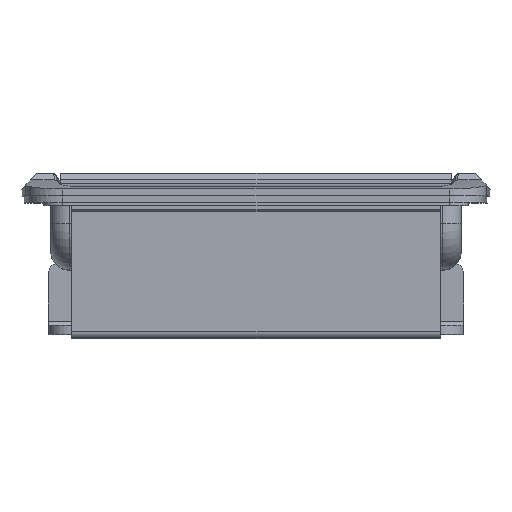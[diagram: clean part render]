
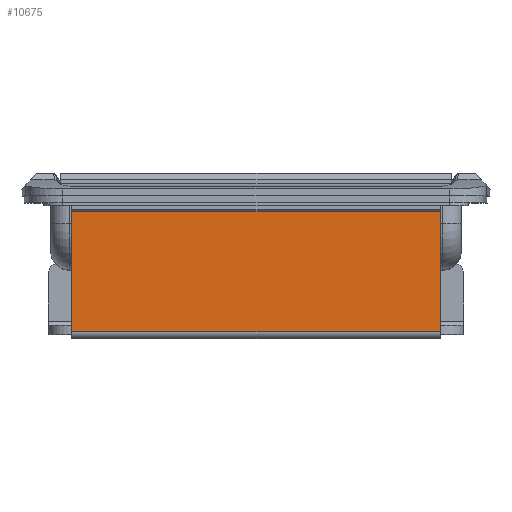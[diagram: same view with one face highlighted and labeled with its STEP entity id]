
A CAD part, top view. The second image highlights one B-rep face of the part: STEP entity #10675.
In plain terms, the highlighted planar face has unit normal (0, 0, 1) as drawn and (0, -1, 0) by its records, which use the part's own axes.
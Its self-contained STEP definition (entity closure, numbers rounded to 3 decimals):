
#491 = EDGE_CURVE ( 'NONE', #1575, #23699, #24994, .T. ) ;
#890 = ORIENTED_EDGE ( 'NONE', *, *, #18880, .T. ) ;
#1575 = VERTEX_POINT ( 'NONE', #18739 ) ;
#2335 = VECTOR ( 'NONE', #13607, 1000. ) ;
#2380 = LINE ( 'NONE', #13847, #17593 ) ;
#2755 = VECTOR ( 'NONE', #17981, 1000. ) ;
#2858 = CARTESIAN_POINT ( 'NONE',  ( 0.5, -1., 0. ) ) ;
#3624 = PLANE ( 'NONE',  #22727 ) ;
#4878 = ORIENTED_EDGE ( 'NONE', *, *, #491, .F. ) ;
#5725 = CARTESIAN_POINT ( 'NONE',  ( 0., -1., 80. ) ) ;
#6121 = VERTEX_POINT ( 'NONE', #2858 ) ;
#6394 = EDGE_CURVE ( 'NONE', #23699, #15019, #10901, .T. ) ;
#6515 = FACE_OUTER_BOUND ( 'NONE', #13374, .T. ) ;
#7723 = CARTESIAN_POINT ( 'NONE',  ( 26.5, -1., 80. ) ) ;
#7808 = DIRECTION ( 'NONE',  ( 0., 0., 1. ) ) ;
#8042 = CARTESIAN_POINT ( 'NONE',  ( 0., -1., 0. ) ) ;
#9791 = DIRECTION ( 'NONE',  ( 0., 0., -1. ) ) ;
#10212 = DIRECTION ( 'NONE',  ( 1., 0., 0. ) ) ;
#10675 = ADVANCED_FACE ( 'NONE', ( #6515 ), #3624, .F. ) ;
#10901 = LINE ( 'NONE', #13820, #2755 ) ;
#11503 = ORIENTED_EDGE ( 'NONE', *, *, #6394, .F. ) ;
#13374 = EDGE_LOOP ( 'NONE', ( #890, #11503, #4878, #13397 ) ) ;
#13397 = ORIENTED_EDGE ( 'NONE', *, *, #18051, .T. ) ;
#13607 = DIRECTION ( 'NONE',  ( 1., 0., 0. ) ) ;
#13820 = CARTESIAN_POINT ( 'NONE',  ( 26.5, -1., 80. ) ) ;
#13847 = CARTESIAN_POINT ( 'NONE',  ( 0.5, -1., 80. ) ) ;
#15019 = VERTEX_POINT ( 'NONE', #21386 ) ;
#15515 = CARTESIAN_POINT ( 'NONE',  ( 0., -1., 80. ) ) ;
#16286 = VECTOR ( 'NONE', #10212, 1000. ) ;
#17593 = VECTOR ( 'NONE', #9791, 1000. ) ;
#17981 = DIRECTION ( 'NONE',  ( 0., 0., -1. ) ) ;
#18051 = EDGE_CURVE ( 'NONE', #1575, #6121, #2380, .T. ) ;
#18739 = CARTESIAN_POINT ( 'NONE',  ( 0.5, -1., 80. ) ) ;
#18880 = EDGE_CURVE ( 'NONE', #6121, #15019, #21739, .T. ) ;
#20194 = DIRECTION ( 'NONE',  ( 0., 1., 0. ) ) ;
#21386 = CARTESIAN_POINT ( 'NONE',  ( 26.5, -1., 0. ) ) ;
#21739 = LINE ( 'NONE', #8042, #16286 ) ;
#22727 = AXIS2_PLACEMENT_3D ( 'NONE', #5725, #20194, #7808 ) ;
#23699 = VERTEX_POINT ( 'NONE', #7723 ) ;
#24994 = LINE ( 'NONE', #15515, #2335 ) ;
